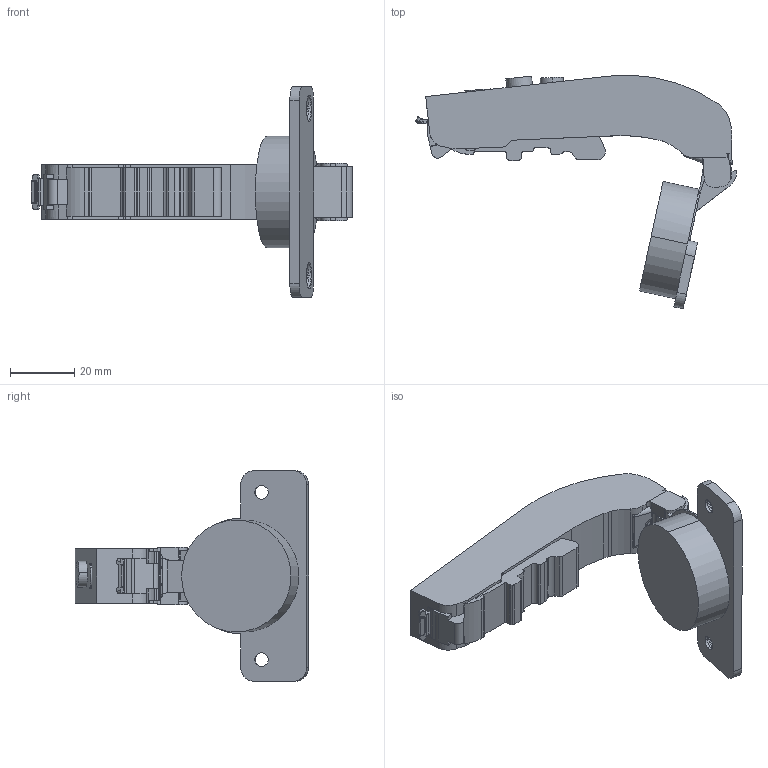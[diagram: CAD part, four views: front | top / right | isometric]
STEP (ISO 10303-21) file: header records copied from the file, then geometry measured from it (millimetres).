
FILE_DESCRIPTION (( 'STEP AP203' ), '1' );
FILE_NAME ('C81J877FAB DTC 3D OPEN.STEP', '2024-07-22T01:05:27', ( '微软用户' ), ( '微软中国' ), 'SwSTEP 2.0', 'SolidWorks 2021', '' );
FILE_SCHEMA (( 'CONFIG_CONTROL_DESIGN' ));
Length unit declared in the file: millimetre
Products named in the file (1): C81J877FAB DTC 3D OPEN
Bounding box: 99.82 x 72.58 x 65.6 mm (x, y, z)
Volume: 49015.4 mm3; surface area: 14293.2 mm2
Topology: 1 solids, 2 shells, 325 faces, 916 edges, 598 vertices
Faces by surface type: cylinder 144, plane 134, torus 26, bspline 15, cone 6
Entity records: 10905 total; most frequent: CARTESIAN_POINT 2392, ORIENTED_EDGE 1828, DIRECTION 1772, EDGE_CURVE 914, AXIS2_PLACEMENT_3D 644, VERTEX_POINT 598, VECTOR 484, LINE 484
